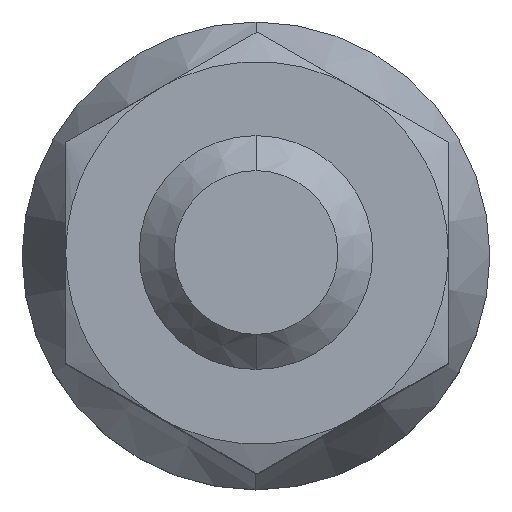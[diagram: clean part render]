
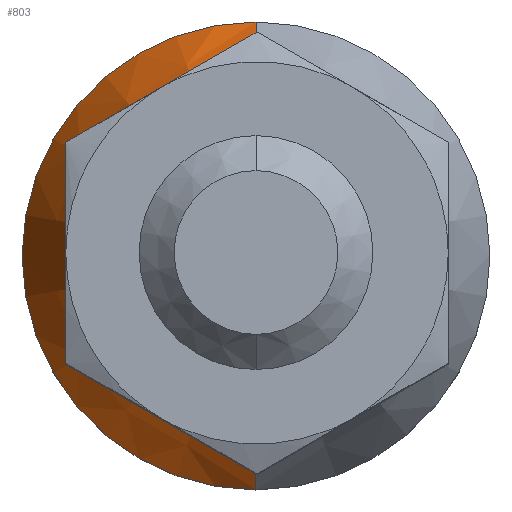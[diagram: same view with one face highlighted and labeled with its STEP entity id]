
A CAD part, top view. The second image highlights one B-rep face of the part: STEP entity #803.
In plain terms, the highlighted conical face has half-angle 24.343 degrees and reference radius 9.724 mm.
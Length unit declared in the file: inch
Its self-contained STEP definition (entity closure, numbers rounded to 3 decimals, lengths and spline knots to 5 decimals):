
#803=ADVANCED_FACE('',(#2139),#2140,.T.);
#975=EDGE_CURVE('',#1139,#1907,#2325,.T.);
#989=EDGE_CURVE('',#1977,#1239,#2341,.T.);
#1139=VERTEX_POINT('',#2502);
#1239=VERTEX_POINT('',#2607);
#1591=EDGE_CURVE('',#1139,#1239,#2980,.T.);
#1713=EDGE_CURVE('',#1907,#1977,#3104,.T.);
#1907=VERTEX_POINT('',#3310);
#1977=VERTEX_POINT('',#3388);
#2139=FACE_OUTER_BOUND('',#3592,.T.);
#2140=CONICAL_SURFACE('',#3593,0.38282,0.425);
#2325=LINE('',#3889,#3890);
#2341=LINE('',#3910,#3911);
#2502=CARTESIAN_POINT('',(0.0,0.48068,0.24034));
#2607=CARTESIAN_POINT('',(0.,-0.48068,0.24034));
#2980=CIRCLE('',#4908,0.48068);
#3104=CIRCLE('',#5117,0.28496);
#3310=CARTESIAN_POINT('',(0.0,0.28496,0.67295));
#3388=CARTESIAN_POINT('',(0.,-0.28496,0.67295));
#3592=EDGE_LOOP('',(#5715,#5716,#5717,#5718));
#3593=AXIS2_PLACEMENT_3D('',#5719,#5720,#5721);
#3889=CARTESIAN_POINT('',(0.,0.38282,0.45665));
#3890=VECTOR('',#5952,1.0);
#3910=CARTESIAN_POINT('',(0.,-0.38282,0.45665));
#3911=VECTOR('',#5978,1.0);
#4908=AXIS2_PLACEMENT_3D('',#6604,#6605,#6606);
#5117=AXIS2_PLACEMENT_3D('',#6677,#6678,#6679);
#5715=ORIENTED_EDGE('',*,*,#975,.F.);
#5716=ORIENTED_EDGE('',*,*,#1591,.T.);
#5717=ORIENTED_EDGE('',*,*,#989,.F.);
#5718=ORIENTED_EDGE('',*,*,#1713,.F.);
#5719=CARTESIAN_POINT('',(0.0,0.,0.45665));
#5720=DIRECTION('',(-0.0,0.0,-1.0));
#5721=DIRECTION('',(0.0,1.0,0.0));
#5952=DIRECTION('',(0.,-0.412,0.911));
#5978=DIRECTION('',(0.,-0.412,-0.911));
#6604=CARTESIAN_POINT('',(0.0,0.,0.24034));
#6605=DIRECTION('',(0.0,-0.0,1.0));
#6606=DIRECTION('',(0.0,1.0,0.0));
#6677=CARTESIAN_POINT('',(0.0,0.,0.67295));
#6678=DIRECTION('',(0.0,-0.0,1.0));
#6679=DIRECTION('',(0.0,1.0,0.0));
